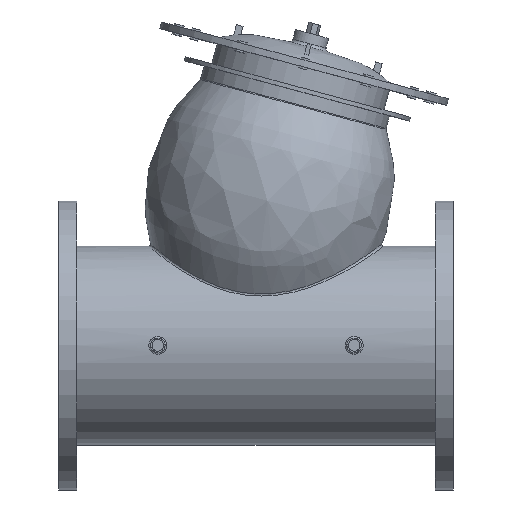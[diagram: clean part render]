
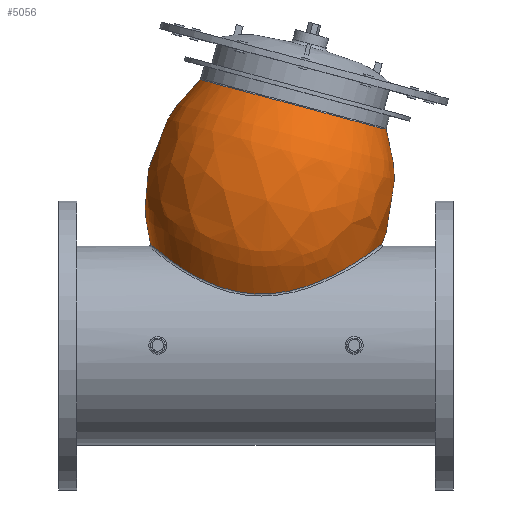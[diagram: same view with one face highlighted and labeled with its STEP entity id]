
A CAD part, top view. The second image highlights one B-rep face of the part: STEP entity #5056.
In plain terms, the highlighted free-form (B-spline) face has degree [2, 2] with [3, 9] control points.
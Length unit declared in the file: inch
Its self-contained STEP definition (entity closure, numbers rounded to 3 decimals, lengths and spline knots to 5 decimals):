
#359=B_SPLINE_CURVE_WITH_KNOTS('',3,(#7210,#7211,#7212,#7213,#7214,#7215,
#7216,#7217,#7218,#7219,#7220,#7221,#7222,#7223,#7224,#7225,#7226,#7227,
#7228,#7229,#7230,#7231,#7232,#7233,#7234,#7235,#7236,#7237,#7238),
 .UNSPECIFIED.,.F.,.F.,(4,1,1,1,1,1,1,1,1,1,1,1,1,1,1,1,1,1,1,1,1,1,1,1,
1,1,4),(0.,2.18212,4.36425,8.72849,13.09274,
17.45699,23.27598,29.09498,32.00448,34.91397,
37.82347,40.73297,46.55196,52.37096,54.31063,
56.25029,58.18996,61.09945,64.00895,66.91845,
69.82795,72.73744,75.64694,81.46594,84.37544,
87.28493,87.68759),.UNSPECIFIED.);
#360=B_SPLINE_CURVE_WITH_KNOTS('',3,(#7239,#7240,#7241,#7242,#7243,#7244,
#7245,#7246,#7247,#7248,#7249,#7250),.UNSPECIFIED.,.F.,.F.,(4,1,1,1,1,1,
1,1,1,4),(87.68759,91.64918,96.01343,100.37767,
104.74192,109.10617,113.47041,117.83466,120.01678,
122.19891),.UNSPECIFIED.);
#392=(
BOUNDED_CURVE()
B_SPLINE_CURVE(2,(#7206,#7207,#7208),.UNSPECIFIED.,.F.,.F.)
B_SPLINE_CURVE_WITH_KNOTS((3,3),(-0.57928,0.68886),
 .UNSPECIFIED.)
CURVE()
GEOMETRIC_REPRESENTATION_ITEM()
RATIONAL_B_SPLINE_CURVE((1.,0.805,0.998))
REPRESENTATION_ITEM('')
);
#395=(
BOUNDED_SURFACE()
B_SPLINE_SURFACE(2,2,((#7178,#7179,#7180,#7181,#7182,#7183,#7184,#7185,
#7186),(#7187,#7188,#7189,#7190,#7191,#7192,#7193,#7194,#7195),(#7196,#7197,
#7198,#7199,#7200,#7201,#7202,#7203,#7204)),.UNSPECIFIED.,.F.,.T.,.F.)
B_SPLINE_SURFACE_WITH_KNOTS((3,3),(3,2,2,2,3),(-0.6959,0.57928),
(-3.14159,-1.5708,0.,1.5708,3.14159),
 .UNSPECIFIED.)
GEOMETRIC_REPRESENTATION_ITEM()
RATIONAL_B_SPLINE_SURFACE(((1.,0.707,1.,0.707,1.,
0.707,1.,0.707,1.),(0.804,0.568,
0.804,0.568,0.804,0.568,
0.804,0.568,0.804),(1.,0.707,
1.,0.707,1.,0.707,1.,0.707,1.)))
REPRESENTATION_ITEM('')
SURFACE()
);
#424=FACE_OUTER_BOUND('',#690,.T.);
#690=EDGE_LOOP('',(#3455,#3456,#3457,#3458,#3459,#3460));
#2132=CIRCLE('',#5390,7.02447);
#2137=CIRCLE('',#5395,7.02447);
#2251=VERTEX_POINT('',#7167);
#2252=VERTEX_POINT('',#7168);
#2256=VERTEX_POINT('',#7205);
#2257=VERTEX_POINT('',#7209);
#2740=EDGE_CURVE('',#2251,#2252,#2132,.T.);
#2745=EDGE_CURVE('',#2252,#2251,#2137,.T.);
#2746=EDGE_CURVE('',#2252,#2256,#392,.T.);
#2747=EDGE_CURVE('',#2257,#2256,#359,.T.);
#2748=EDGE_CURVE('',#2256,#2257,#360,.T.);
#3455=ORIENTED_EDGE('',*,*,#2740,.F.);
#3456=ORIENTED_EDGE('',*,*,#2745,.F.);
#3457=ORIENTED_EDGE('',*,*,#2746,.T.);
#3458=ORIENTED_EDGE('',*,*,#2747,.F.);
#3459=ORIENTED_EDGE('',*,*,#2748,.F.);
#3460=ORIENTED_EDGE('',*,*,#2746,.F.);
#5056=ADVANCED_FACE('',(#424),#395,.F.);
#5390=AXIS2_PLACEMENT_3D('',#7169,#5880,#5881);
#5395=AXIS2_PLACEMENT_3D('',#7177,#5890,#5891);
#5880=DIRECTION('center_axis',(0.259,0.966,0.));
#5881=DIRECTION('ref_axis',(0.966,-0.259,0.));
#5890=DIRECTION('center_axis',(0.259,0.966,0.));
#5891=DIRECTION('ref_axis',(0.966,-0.259,0.));
#7167=CARTESIAN_POINT('',(-4.07891,19.38186,0.));
#7168=CARTESIAN_POINT('',(2.7062,17.5638,-7.02447));
#7169=CARTESIAN_POINT('Origin',(2.7062,17.5638,0.));
#7177=CARTESIAN_POINT('Origin',(2.7062,17.5638,0.));
#7178=CARTESIAN_POINT('Ctrl Pts',(-0.98506,3.78782,-6.19192));
#7179=CARTESIAN_POINT('Ctrl Pts',(-6.966,5.39041,-6.19192));
#7180=CARTESIAN_POINT('Ctrl Pts',(-6.966,5.39041,0.));
#7181=CARTESIAN_POINT('Ctrl Pts',(-6.966,5.39041,6.19192));
#7182=CARTESIAN_POINT('Ctrl Pts',(-0.98506,3.78782,6.19192));
#7183=CARTESIAN_POINT('Ctrl Pts',(4.99588,2.18523,6.19192));
#7184=CARTESIAN_POINT('Ctrl Pts',(4.99588,2.18523,0.));
#7185=CARTESIAN_POINT('Ctrl Pts',(4.99588,2.18523,-6.19192));
#7186=CARTESIAN_POINT('Ctrl Pts',(-0.98506,3.78782,-6.19192));
#7187=CARTESIAN_POINT('Ctrl Pts',(0.78076,10.37794,-11.89083));
#7188=CARTESIAN_POINT('Ctrl Pts',(-10.7049,13.45551,-11.89083));
#7189=CARTESIAN_POINT('Ctrl Pts',(-10.7049,13.45551,0.));
#7190=CARTESIAN_POINT('Ctrl Pts',(-10.7049,13.45551,11.89083));
#7191=CARTESIAN_POINT('Ctrl Pts',(0.78076,10.37794,11.89083));
#7192=CARTESIAN_POINT('Ctrl Pts',(12.26642,7.30037,11.89083));
#7193=CARTESIAN_POINT('Ctrl Pts',(12.26642,7.30037,0.));
#7194=CARTESIAN_POINT('Ctrl Pts',(12.26642,7.30037,-11.89083));
#7195=CARTESIAN_POINT('Ctrl Pts',(0.78076,10.37794,-11.89083));
#7196=CARTESIAN_POINT('Ctrl Pts',(2.7062,17.5638,-7.02447));
#7197=CARTESIAN_POINT('Ctrl Pts',(-4.07891,19.38186,-7.02447));
#7198=CARTESIAN_POINT('Ctrl Pts',(-4.07891,19.38186,0.));
#7199=CARTESIAN_POINT('Ctrl Pts',(-4.07891,19.38186,7.02447));
#7200=CARTESIAN_POINT('Ctrl Pts',(2.7062,17.5638,7.02447));
#7201=CARTESIAN_POINT('Ctrl Pts',(9.49132,15.74573,7.02447));
#7202=CARTESIAN_POINT('Ctrl Pts',(9.49132,15.74573,0.));
#7203=CARTESIAN_POINT('Ctrl Pts',(9.49132,15.74573,-7.02447));
#7204=CARTESIAN_POINT('Ctrl Pts',(2.7062,17.5638,-7.02447));
#7205=CARTESIAN_POINT('',(-0.96935,3.84645,-6.24232));
#7206=CARTESIAN_POINT('Ctrl Pts',(2.7062,17.5638,-7.02447));
#7207=CARTESIAN_POINT('Ctrl Pts',(0.79396,10.42722,-11.85746));
#7208=CARTESIAN_POINT('Ctrl Pts',(-0.96934,3.84648,-6.24231));
#7209=CARTESIAN_POINT('',(9.18387,7.42268,0.));
#7210=CARTESIAN_POINT('Ctrl Pts',(9.18387,7.42268,0.));
#7211=CARTESIAN_POINT('Ctrl Pts',(9.18387,7.42268,0.29812));
#7212=CARTESIAN_POINT('Ctrl Pts',(9.13613,7.38547,0.89394));
#7213=CARTESIAN_POINT('Ctrl Pts',(8.85743,7.17114,2.04052));
#7214=CARTESIAN_POINT('Ctrl Pts',(8.20003,6.68133,3.31096));
#7215=CARTESIAN_POINT('Ctrl Pts',(7.06137,5.91572,4.48397));
#7216=CARTESIAN_POINT('Ctrl Pts',(5.52642,5.03766,5.42011));
#7217=CARTESIAN_POINT('Ctrl Pts',(3.58522,4.20011,6.04675));
#7218=CARTESIAN_POINT('Ctrl Pts',(1.64154,3.7697,6.29083));
#7219=CARTESIAN_POINT('Ctrl Pts',(0.04822,3.72358,6.31501));
#7220=CARTESIAN_POINT('Ctrl Pts',(-1.13738,3.84718,6.24269));
#7221=CARTESIAN_POINT('Ctrl Pts',(-2.28666,4.12383,6.07298));
#7222=CARTESIAN_POINT('Ctrl Pts',(-3.7374,4.66236,5.69882));
#7223=CARTESIAN_POINT('Ctrl Pts',(-5.35161,5.56533,4.92197));
#7224=CARTESIAN_POINT('Ctrl Pts',(-6.51751,6.43224,3.72612));
#7225=CARTESIAN_POINT('Ctrl Pts',(-7.1195,6.91933,2.64579));
#7226=CARTESIAN_POINT('Ctrl Pts',(-7.40095,7.15593,1.9395));
#7227=CARTESIAN_POINT('Ctrl Pts',(-7.62745,7.35138,1.05888));
#7228=CARTESIAN_POINT('Ctrl Pts',(-7.72746,7.43979,0.00002));
#7229=CARTESIAN_POINT('Ctrl Pts',(-7.61489,7.34032,-1.19169));
#7230=CARTESIAN_POINT('Ctrl Pts',(-7.28801,7.05854,-2.31124));
#7231=CARTESIAN_POINT('Ctrl Pts',(-6.7731,6.63549,-3.30741));
#7232=CARTESIAN_POINT('Ctrl Pts',(-6.10064,6.12238,-4.15409));
#7233=CARTESIAN_POINT('Ctrl Pts',(-5.02911,5.38491,-5.07655));
#7234=CARTESIAN_POINT('Ctrl Pts',(-3.73715,4.66217,-5.69929));
#7235=CARTESIAN_POINT('Ctrl Pts',(-2.2866,4.12392,-6.0728));
#7236=CARTESIAN_POINT('Ctrl Pts',(-1.46746,3.92648,-6.19398));
#7237=CARTESIAN_POINT('Ctrl Pts',(-1.02344,3.85466,-6.23736));
#7238=CARTESIAN_POINT('Ctrl Pts',(-0.96936,3.84642,-6.24233));
#7239=CARTESIAN_POINT('Ctrl Pts',(-0.96936,3.84642,-6.24233));
#7240=CARTESIAN_POINT('Ctrl Pts',(-0.43724,3.76536,-6.29117));
#7241=CARTESIAN_POINT('Ctrl Pts',(0.70245,3.69527,-6.33094));
#7242=CARTESIAN_POINT('Ctrl Pts',(2.42776,3.91527,-6.21138));
#7243=CARTESIAN_POINT('Ctrl Pts',(4.12095,4.42527,-5.88615));
#7244=CARTESIAN_POINT('Ctrl Pts',(5.68016,5.12537,-5.32651));
#7245=CARTESIAN_POINT('Ctrl Pts',(7.06113,5.91573,-4.48403));
#7246=CARTESIAN_POINT('Ctrl Pts',(8.20009,6.68127,-3.31103));
#7247=CARTESIAN_POINT('Ctrl Pts',(8.85738,7.17115,-2.04055));
#7248=CARTESIAN_POINT('Ctrl Pts',(9.13615,7.38546,-0.89393));
#7249=CARTESIAN_POINT('Ctrl Pts',(9.18387,7.42268,-0.29812));
#7250=CARTESIAN_POINT('Ctrl Pts',(9.18387,7.42268,0.));
